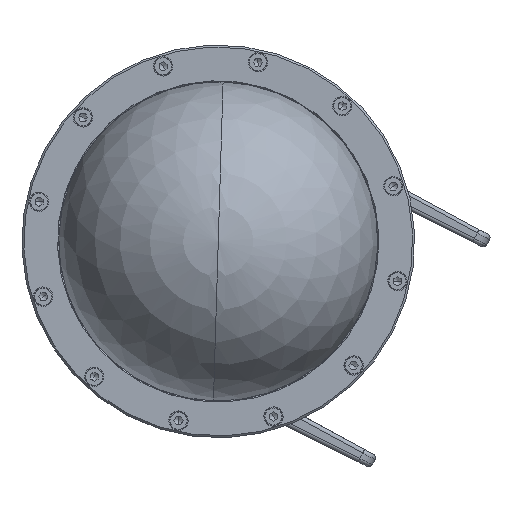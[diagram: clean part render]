
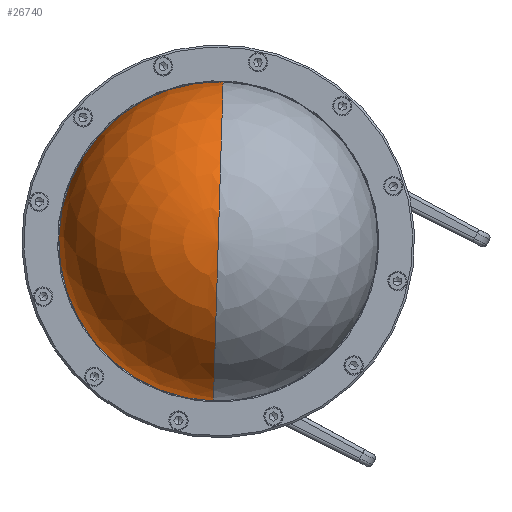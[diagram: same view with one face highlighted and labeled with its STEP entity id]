
A CAD part, front view. The second image highlights one B-rep face of the part: STEP entity #26740.
In plain terms, the highlighted spherical face has radius 49.5 mm.
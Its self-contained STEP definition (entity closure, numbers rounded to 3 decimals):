
#26672=CARTESIAN_POINT('Vertex',(23.728,-43.434,8.078)) ;
#26675=CARTESIAN_POINT('Axis2P3D Location',(0.,0.,8.078)) ;
#26679=CARTESIAN_POINT('Vertex',(-23.728,43.434,8.078)) ;
#26718=CARTESIAN_POINT('Axis2P3D Location',(0.,0.,7.2)) ;
#26723=CARTESIAN_POINT('Axis2P3D Location',(0.,0.,7.2)) ;
#26727=CARTESIAN_POINT('Vertex',(0.,0.,56.7)) ;
#26730=CARTESIAN_POINT('Axis2P3D Location',(0.,0.,7.2)) ;
#26676=DIRECTION('Axis2P3D Direction',(0.,0.,-1.)) ;
#26719=DIRECTION('Axis2P3D Direction',(0.,0.,1.)) ;
#26720=DIRECTION('Axis2P3D XDirection',(-0.479,0.878,0.)) ;
#26724=DIRECTION('Axis2P3D Direction',(-0.878,-0.479,0.)) ;
#26731=DIRECTION('Axis2P3D Direction',(0.878,0.479,-0.)) ;
#26677=AXIS2_PLACEMENT_3D('Circle Axis2P3D',#26675,#26676,$) ;
#26721=AXIS2_PLACEMENT_3D('Sphere Axis2P3D',#26718,#26719,#26720) ;
#26725=AXIS2_PLACEMENT_3D('Circle Axis2P3D',#26723,#26724,$) ;
#26732=AXIS2_PLACEMENT_3D('Circle Axis2P3D',#26730,#26731,$) ;
#26678=CIRCLE('generated circle',#26677,49.492) ;
#26726=CIRCLE('generated circle',#26725,49.5) ;
#26733=CIRCLE('generated circle',#26732,49.5) ;
#26722=SPHERICAL_SURFACE('',#26721,49.5) ;
#26681=EDGE_CURVE('',#26680,#26673,#26678,.F.) ;
#26729=EDGE_CURVE('',#26673,#26728,#26726,.T.) ;
#26734=EDGE_CURVE('',#26680,#26728,#26733,.T.) ;
#26736=ORIENTED_EDGE('',*,*,#26729,.T.) ;
#26737=ORIENTED_EDGE('',*,*,#26734,.F.) ;
#26738=ORIENTED_EDGE('',*,*,#26681,.T.) ;
#26735=EDGE_LOOP('',(#26736,#26737,#26738)) ;
#26673=VERTEX_POINT('',#26672) ;
#26680=VERTEX_POINT('',#26679) ;
#26728=VERTEX_POINT('',#26727) ;
#26740=ADVANCED_FACE('PartBody',(#26739),#26722,.T.) ;
#26739=FACE_OUTER_BOUND('',#26735,.T.) ;
